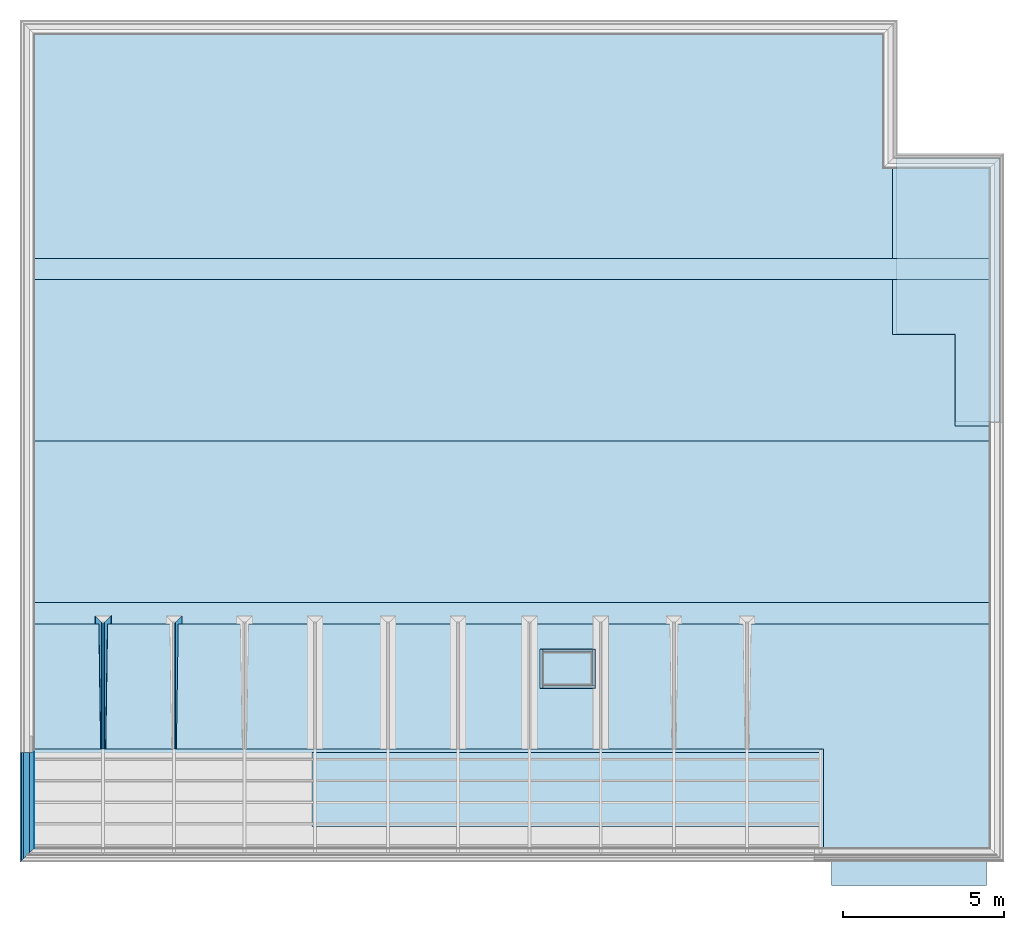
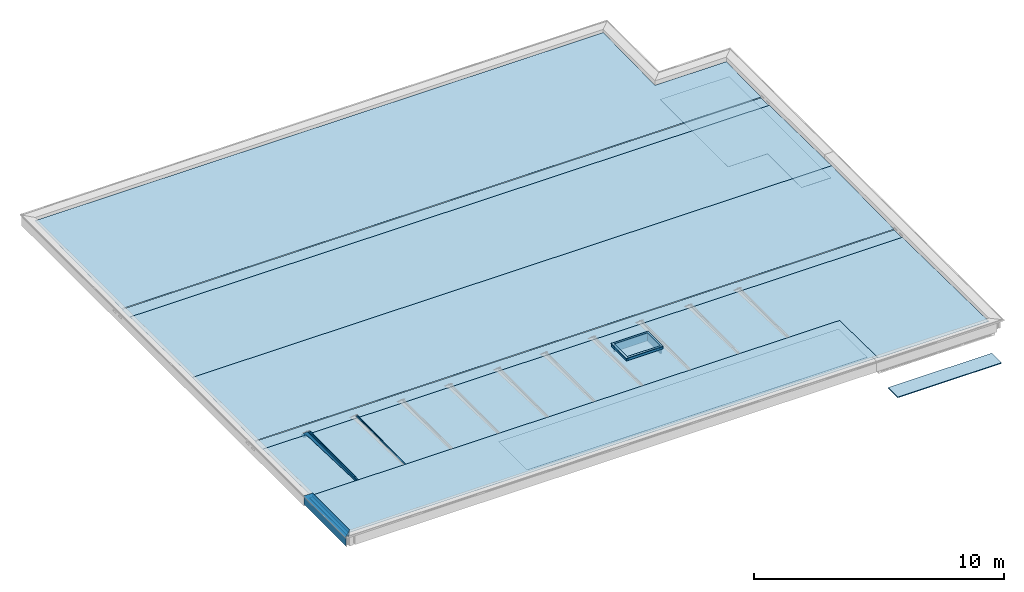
# One storey, part 5 of 16: 10 building element parts, 9 roofs, 4 slabs, 4 walls, 4 elements without a shape of their own.
"""IFC2X3 building model written with IfcOpenShell, lengths in millimetres."""

from ifc_helpers import new_model, entity, si_unit, converted_unit, derived_unit, money_unit, direction, frame, origin_with_axes, place, context, subcontext, project, spatial, faceted_brep, material, type_object, element, aggregate, save


model = new_model("IFC2X3")

# Units and contexts
model_context = context("Model", 3, precision=0.01, world=origin_with_axes(), true_north=direction((0.0, 1.0)))
body_context = subcontext(model_context, "Body", "Model", "MODEL_VIEW")
ifc_project = project(units=[si_unit("LENGTHUNIT", "METRE", prefix="MILLI"), si_unit("AREAUNIT", "SQUARE_METRE"), si_unit("VOLUMEUNIT", "CUBIC_METRE"), converted_unit("PLANEANGLEUNIT", "DEGREE", entity("IfcPlaneAngleMeasure", 0.0174532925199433), si_unit("PLANEANGLEUNIT", "RADIAN"), dimensions=[0, 0, 0, 0, 0, 0, 0]), money_unit("EUR"), converted_unit("TIMEUNIT", "Year", entity("IfcTimeMeasure", 31556926.0), si_unit("TIMEUNIT", "SECOND"), dimensions=[0, 0, 1, 0, 0, 0, 0]), si_unit("MASSUNIT", "GRAM", prefix="KILO"), si_unit("THERMODYNAMICTEMPERATUREUNIT", "DEGREE_CELSIUS"), si_unit("LUMINOUSINTENSITYUNIT", "LUMEN"), si_unit("ENERGYUNIT", "JOULE", prefix="MEGA"), derived_unit("THERMALCONDUCTANCEUNIT", [(si_unit("POWERUNIT", "WATT"), 1), (si_unit("LENGTHUNIT", "METRE"), -1), (si_unit("THERMODYNAMICTEMPERATUREUNIT", "KELVIN"), -1)]), derived_unit("SPECIFICHEATCAPACITYUNIT", [(si_unit("ENERGYUNIT", "JOULE"), 1), (si_unit("MASSUNIT", "GRAM", prefix="KILO"), -1), (si_unit("THERMODYNAMICTEMPERATUREUNIT", "KELVIN"), -1)]), derived_unit("MASSDENSITYUNIT", [(si_unit("MASSUNIT", "GRAM", prefix="KILO"), 1), (si_unit("VOLUMEUNIT", "CUBIC_METRE"), -1)])], contexts=[model_context])

# Site, building, storey
site_placement = place(None, origin_with_axes())
site = spatial("IfcSite", under=ifc_project, at=site_placement, Name="Site", CompositionType="ELEMENT")
building_placement = place(site_placement, origin_with_axes())
building = spatial("IfcBuilding", under=site, at=building_placement, Name="Naam gebouw", CompositionType="ELEMENT")
storey_placement = place(building_placement, frame((0.0, 0.0, 7820.0), z_axis=(0.0, 0.0, 1.0), x_axis=(1.0, 0.0, 0.0)))
storey = spatial("IfcBuildingStorey", under=building, at=storey_placement, Name="2e dakoverzicht", CompositionType="ELEMENT", Elevation=7820.0)

# Slabs
ifc_material_1 = material(Name="Metaal - Aluminium")
slab_type_1 = type_object("IfcSlabType", Name="Metaal - Aluminium 40", PredefinedType="NOTDEFINED")
slab_1_placement = place(storey_placement, frame((24846.9990408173, 3424.000000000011, -990.0000000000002), z_axis=(0.0, 0.0, 1.0), x_axis=(1.0, 0.0, 0.0)))
element("IfcSlab", 1, at=slab_1_placement, inside=storey, type_object=slab_type_1, material=ifc_material_1, Name="h4 Aluminium, aluminiumlegeringen_Vloer-x", PredefinedType="NOTDEFINED", context=body_context, shape_type="Brep", body=[
    faceted_brep([(0.0, 0.0, 40.00000000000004), (0.0, 0.0, 0.0), (0.0, -774.0000000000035, 0.0), (0.0, -774.0000000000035, 40.00000000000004), (4806.001883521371, 0.0, 40.00000000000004), (4806.001883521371, 0.0, 0.0), (4806.001883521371, -774.0000000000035, 0.0), (4806.001883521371, -774.0000000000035, 40.00000000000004)], [[[0, 1, 2, 3]], [[4, 5, 1, 0]], [[2, 1, 5, 6]], [[3, 2, 6, 7]], [[4, 0, 3, 7]], [[7, 6, 5, 4]]]),
])
ifc_material_2 = material(Name="Cementgebonden plaatmateriaal")
slab_type_2 = type_object("IfcSlabType", Name="Cementgebonden plaatmateriaal 12", PredefinedType="NOTDEFINED")
slab_2_placement = place(storey_placement, frame((30066.99999999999, 17009.99778166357, -770.000002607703), z_axis=(0.0, 0.0, 1.0), x_axis=(1.0, 0.0, 0.0)))
element("IfcSlab", 2, at=slab_2_placement, inside=storey, type_object=slab_type_2, material=ifc_material_2, Name="f7 Vormvaste grondstoffen, gebonden met gips_Vloer-x", PredefinedType="NOTDEFINED", context=body_context, shape_type="Brep", body=[
    faceted_brep([(0.0, 0.0, 11.99999999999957), (0.0, 0.0, 0.0), (0.0, 8181.978432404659, 0.0), (0.0, 8181.978432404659, 11.99999999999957), (-1380.999976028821, 0.0, 11.99999999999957), (-1380.999976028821, 0.0, 0.0), (-1380.999976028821, 2726.002602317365, 0.0), (-3206.999999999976, 2726.002602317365, 0.0), (-3206.999999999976, 8181.978432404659, 0.0), (-3206.999999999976, 8181.978432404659, 11.99999999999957), (-3206.999999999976, 2726.002602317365, 11.99999999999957), (-1380.999976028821, 2726.002602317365, 11.99999999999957)], [[[0, 1, 2, 3]], [[4, 5, 1, 0]], [[2, 1, 5, 6, 7, 8]], [[3, 2, 8, 9]], [[4, 0, 3, 9, 10, 11]], [[11, 6, 5, 4]], [[10, 7, 6, 11]], [[9, 8, 7, 10]]]),
])
ifc_material_3 = material(Name="Isolatie - Kunststof hard")
slab_type_3 = type_object("IfcSlabType", Name="Isolatie - Kunststof hard 145", PredefinedType="NOTDEFINED")
slab_3_placement = place(storey_placement, frame((29899.99999999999, 16887.99778166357, -259.9999999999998), z_axis=(0.0, 0.0, 1.0), x_axis=(1.0, 0.0, 0.0)))
element("IfcSlab", 3, at=slab_3_placement, inside=storey, type_object=slab_type_3, material=ifc_material_3, Name="n7 Kunststof met cellenstructuur_Vloer-x", PredefinedType="NOTDEFINED", context=body_context, shape_type="Brep", body=[
    faceted_brep([(0.0, 0.0, 0.0), (0.0, 0.0, -144.9999999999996), (0.0, 8136.978432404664, -144.9999999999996), (0.0, 8136.978432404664, 0.0), (-1231.999976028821, 0.0, 0.0), (-1231.999976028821, 0.0, -144.9999999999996), (-1231.999976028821, 2830.002611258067, -144.9999999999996), (-3162.000029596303, 2830.002611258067, -144.9999999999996), (-3162.000029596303, 8136.978432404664, -144.9999999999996), (-3162.000029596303, 8136.978432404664, 0.0), (-3162.000029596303, 2830.002611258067, 0.0), (-1231.999976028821, 2830.002611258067, 0.0)], [[[0, 1, 2, 3]], [[4, 5, 1, 0]], [[2, 1, 5, 6, 7, 8]], [[3, 2, 8, 9]], [[4, 0, 3, 9, 10, 11]], [[11, 6, 5, 4]], [[10, 7, 6, 11]], [[9, 8, 7, 10]]]),
])
ifc_material_4 = material(Name="Gipsplaat")
slab_type_4 = type_object("IfcSlabType", Name="45 Geisoleerd plafond 90 104", PredefinedType="NOTDEFINED")
slab_4_placement = place(storey_placement, frame((8749.999790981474, 6779.999960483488, 99.00004846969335), z_axis=(0.0, 0.0, 1.0), x_axis=(1.0, 0.0, 0.0)))
element("IfcSlab", 4, at=slab_4_placement, inside=storey, type_object=slab_type_4, material=ifc_material_4, Name="f7 Vormvaste grondstoffen, gebonden met gips_Vloer-x", PredefinedType="NOTDEFINED", context=body_context, shape_type="Brep", body=[
    faceted_brep([(0.0, 0.0, -91.99999999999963), (0.0, 0.0, -104.0000000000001), (-0.0001020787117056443, -2299.999999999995, -104.0000000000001), (-0.0001020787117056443, -2299.999999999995, -91.99999999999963), (15749.99934863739, -0.0006990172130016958, -91.99999999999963), (15749.99934863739, -0.0006990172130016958, -104.0000000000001), (15749.99924655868, -2300.000699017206, -104.0000000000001), (15749.99924655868, -2300.000699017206, -91.99999999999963)], [[[0, 1, 2, 3]], [[4, 5, 1, 0]], [[2, 1, 5, 6]], [[3, 2, 6, 7]], [[4, 0, 3, 7]], [[7, 6, 5, 4]]]),
])

# Walls
wall_type = type_object("IfcWallType", Name="Isolatie - Kunststof hard 85", PredefinedType="NOTDEFINED")
wall_1_placement = place(storey_placement, frame((17439.99999999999, 9884.999976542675, 0.0), z_axis=(0.0, 0.0, 1.0), x_axis=(-1.0, 0.0, 0.0)))
element("IfcWall", 5, at=wall_1_placement, inside=storey, type_object=wall_type, material=ifc_material_3, Name="21_Wand-x", context=body_context, shape_type="Brep", body=[
    faceted_brep([(1530.000000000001, -85.00000000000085, 380.0000000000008), (1530.000000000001, 0.0, 380.0000000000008), (0.0, 0.0, 380.0000000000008), (0.0, -85.00000000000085, 380.0000000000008), (1530.000000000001, -85.00000000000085, 0.0), (1530.000000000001, 0.0, 0.0), (0.0, 0.0, 0.0), (0.0, -85.00000000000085, 0.0)], [[[0, 1, 2, 3]], [[1, 0, 4, 5]], [[1, 5, 6, 2]], [[7, 3, 2, 6]], [[4, 0, 3, 7]], [[5, 4, 7, 6]]]),
])
wall_2_placement = place(storey_placement, frame((15909.99999999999, 8854.999976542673, 0.0), z_axis=(0.0, 0.0, 1.0), x_axis=(1.0, 0.0, 0.0)))
element("IfcWall", 6, at=wall_2_placement, inside=storey, type_object=wall_type, material=ifc_material_3, Name="21_Wand-x", context=body_context, shape_type="Brep", body=[
    faceted_brep([(1615.000000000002, -84.99999999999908, 380.0000000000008), (1615.000000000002, 0.0, 380.0000000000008), (0.0, 0.0, 380.0000000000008), (0.0, -85.00000000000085, 380.0000000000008), (1615.000000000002, -84.99999999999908, 0.0), (1615.000000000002, 0.0, 0.0), (0.0, 0.0, 0.0), (0.0, -85.00000000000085, 0.0)], [[[0, 1, 2, 3]], [[1, 0, 4, 5]], [[1, 5, 6, 2]], [[7, 3, 2, 6]], [[4, 0, 3, 7]], [[5, 4, 7, 6]]]),
])
wall_3_placement = place(storey_placement, frame((15909.99999999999, 9884.999976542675, 0.0), z_axis=(0.0, 0.0, 1.0), x_axis=(0.0, -1.0, 0.0)))
element("IfcWall", 7, at=wall_3_placement, inside=storey, type_object=wall_type, material=ifc_material_3, Name="21_Wand-x", context=body_context, shape_type="Brep", body=[
    faceted_brep([(1115.000000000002, -85.00000000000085, 380.0000000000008), (1115.000000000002, 0.0, 380.0000000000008), (-85.00000000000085, 0.0, 380.0000000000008), (-85.00000000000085, -85.00000000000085, 380.0000000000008), (1115.000000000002, -85.00000000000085, 0.0), (1115.000000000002, 0.0, 0.0), (-85.00000000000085, 0.0, 0.0), (-85.00000000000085, -85.00000000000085, 0.0)], [[[0, 1, 2, 3]], [[1, 0, 4, 5]], [[1, 5, 6, 2]], [[7, 3, 2, 6]], [[4, 0, 3, 7]], [[5, 4, 7, 6]]]),
])
wall_4_placement = place(storey_placement, frame((17439.99999999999, 8854.999976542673, 0.0), z_axis=(0.0, 0.0, 1.0), x_axis=(0.0, 1.0, 0.0)))
element("IfcWall", 8, at=wall_4_placement, inside=storey, type_object=wall_type, material=ifc_material_3, Name="21_Wand-x", context=body_context, shape_type="Brep", body=[
    faceted_brep([(1115.000000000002, -85.00000000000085, 380.0000000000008), (1115.000000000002, 0.0, 380.0000000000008), (0.0, 0.0, 380.0000000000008), (0.0, -85.00000000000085, 380.0000000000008), (1115.000000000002, -85.00000000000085, 0.0), (1115.000000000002, 0.0, 0.0), (0.0, 0.0, 0.0), (0.0, -85.00000000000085, 0.0)], [[[0, 1, 2, 3]], [[1, 0, 4, 5]], [[1, 5, 6, 2]], [[7, 3, 2, 6]], [[4, 0, 3, 7]], [[5, 4, 7, 6]]]),
])

# Roofs
ifc_material_5 = material(Name="47 waterdichte laag - bitumen")
roof_1_placement = place(storey_placement, frame((716.0560544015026, 6880.000010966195, 317.999999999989), z_axis=(0.0, 0.0, 1.0), x_axis=(1.0, 0.0, 0.0)))
element("IfcRoof", 9, at=roof_1_placement, inside=storey, material=ifc_material_5, Name="27_Dak-x", ShapeType="NOTDEFINED", context=body_context, shape_type="Brep", body=[
    faceted_brep([(23883.94298559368, 0.0, 3.000337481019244), (-561.0560544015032, 0.0, 3.000337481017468), (-561.0560544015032, -3066.000020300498, 48.99033778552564), (23883.94298559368, -3066.000020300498, 48.99033778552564), (23883.94298531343, -1.586810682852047e-07, 4.420144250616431e-07), (-561.0560547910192, -1.586810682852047e-07, 4.420144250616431e-07), (-561.0560547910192, -3066.000020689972, 45.99000074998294), (23883.94298531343, -3066.000020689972, 45.99000074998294)], [[[0, 1, 2, 3]], [[1, 0, 4, 5]], [[2, 1, 5, 6]], [[3, 2, 6, 7]], [[0, 3, 7, 4]], [[5, 4, 7, 6]]]),
])
ifc_material_6 = material(Name="Glas")
roof_2_placement = place(storey_placement, frame((15825.00002061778, 9970.000000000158, 380.0000000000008), z_axis=(0.0, 0.0, 1.0), x_axis=(1.0, 4.161523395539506e-09, 0.0)))
element("IfcRoof", 10, at=roof_2_placement, inside=storey, material=ifc_material_6, Name="27_Dak-x", ShapeType="NOTDEFINED", context=body_context, shape_type="Brep", body=[
    faceted_brep([(-9.999999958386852, 10.00000004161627, 0.0), (-10.00000503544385, -1210.000023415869, 0.0), (-10.00000503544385, -1210.000023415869, 19.99775037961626), (-9.999999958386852, 10.00000004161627, 19.99775037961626), (1709.999979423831, 9.999992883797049, 0.0), (1709.999974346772, -1210.000030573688, 0.0), (1614.999999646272, -85.00000672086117, 0.0), (84.99999964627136, -85.00000035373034, 0.0), (84.99999535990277, -1115.000000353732, 0.0), (1614.999995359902, -1115.000006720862, 0.0), (1709.999974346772, -1210.000030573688, 19.99775037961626), (1709.999979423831, 9.999992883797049, 19.99775037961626), (1614.999999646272, -85.00000672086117, 19.99775037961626), (1614.999995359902, -1115.000006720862, 19.99775037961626), (84.99999535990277, -1115.000000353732, 19.99775037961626), (84.99999964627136, -85.00000035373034, 19.99775037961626)], [[[0, 1, 2, 3]], [[0, 4, 5, 1], [6, 7, 8, 9]], [[1, 5, 10, 2]], [[3, 2, 10, 11], [12, 13, 14, 15]], [[4, 0, 3, 11]], [[5, 4, 11, 10]], [[7, 6, 12, 15]], [[8, 7, 15, 14]], [[9, 8, 14, 13]], [[6, 9, 13, 12]]]),
])
roof_3_placement = place(storey_placement, frame((15825.00002061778, 9970.000000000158, 380.0000000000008), z_axis=(0.0, 0.0, 1.0), x_axis=(1.0, 4.161523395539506e-09, 0.0)))
element("IfcRoof", 11, at=roof_3_placement, inside=storey, material=ifc_material_6, Name="27_Dak-x", ShapeType="NOTDEFINED", context=body_context, shape_type="Brep", body=[
    faceted_brep([(84.99999964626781, -85.00000035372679, 0.0), (84.99999535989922, -1115.000023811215, 0.0), (84.99999535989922, -1115.000023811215, 19.99775037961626), (84.99999964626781, -85.00000035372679, 19.99775037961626), (1614.999979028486, -85.00000672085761, 0.0), (1614.999974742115, -1115.000030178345, 0.0), (1614.999974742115, -1115.000030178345, 19.99775037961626), (1614.999979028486, -85.00000672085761, 19.99775037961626)], [[[0, 1, 2, 3]], [[0, 4, 5, 1]], [[1, 5, 6, 2]], [[3, 2, 6, 7]], [[4, 0, 3, 7]], [[5, 4, 7, 6]]]),
])
roof_4_placement = place(storey_placement, frame((17085.35976262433, 22080.00005534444, 229.999662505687), z_axis=(0.0, 0.0, 1.0), x_axis=(-1.0, 0.0, 0.0)))
element("IfcRoof", 12, at=roof_4_placement, inside=storey, material=ifc_material_5, Name="27_Dak-x", ShapeType="NOTDEFINED", context=body_context, shape_type="Brep", body=[
    faceted_brep([(-9359.64023737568, -6940.000000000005, 107.1003374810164), (16930.35976262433, -6940.000000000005, 107.1003374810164), (16930.35976262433, 0.0, 3.000337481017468), (-12659.64023737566, 0.0, 3.000337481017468), (-12659.64023737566, -2789.97621406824, 44.8499806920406), (-9359.64023737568, -2789.97621406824, 44.8499806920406), (-9359.672055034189, -6940.000000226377, 104.1000004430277), (16930.39158102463, -6940.000000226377, 104.1000004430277), (16930.39158102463, 3.894662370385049e-07, 4.337916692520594e-07), (-12659.67205577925, 3.894662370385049e-07, 4.337916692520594e-07), (-12659.67205577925, -2790.053023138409, 41.85079578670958), (-9359.672055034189, -2790.053023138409, 41.85079578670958)], [[[0, 1, 2, 3, 4, 5]], [[1, 0, 6, 7]], [[2, 1, 7, 8]], [[3, 2, 8, 9]], [[4, 3, 9, 10]], [[5, 4, 10, 11]], [[0, 5, 11, 6]], [[7, 6, 11, 10, 9, 8]]]),
])
roof_5_placement = place(storey_placement, frame((13003.2215252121, 22080.00005534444, 199.9996625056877), z_axis=(0.0, 0.0, 1.0), x_axis=(1.0, 0.0, 0.0)))
element("IfcRoof", 13, at=roof_5_placement, inside=storey, material=ifc_material_5, Name="27_Dak-x", ShapeType="NOTDEFINED", context=body_context, shape_type="Brep", body=[
    faceted_brep([(-12848.2215252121, 0.0, 3.000000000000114), (-12848.2215252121, 0.0, 0.0), (-12848.2215252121, -659.9999999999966, 0.0), (-12848.2215252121, -659.9999999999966, 3.000000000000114), (16741.77847478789, 0.0, 3.000000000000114), (16741.77847478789, 0.0, 0.0), (16741.77847478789, -659.9999999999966, 0.0), (16741.77847478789, -659.9999999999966, 3.000000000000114)], [[[0, 1, 2, 3]], [[4, 5, 1, 0]], [[2, 1, 5, 6]], [[3, 2, 6, 7]], [[4, 0, 3, 7]], [[7, 6, 5, 4]]]),
])
roof_6_placement = place(storey_placement, frame((17080.59517070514, 11420.00005534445, 229.9996625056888), z_axis=(0.0, 0.0, 1.0), x_axis=(-1.0, 0.0, 0.0)))
element("IfcRoof", 14, at=roof_6_placement, inside=storey, material=ifc_material_5, Name="27_Dak-x", ShapeType="NOTDEFINED", context=body_context, shape_type="Brep", body=[
    faceted_brep([(-12664.40482929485, -5000.000000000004, 78.00033748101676), (16925.59517070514, -5000.000000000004, 78.00033748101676), (16925.59517070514, 0.0, 3.000337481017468), (-12664.40482929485, 0.0, 3.000337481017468), (-12664.43664769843, -4999.999999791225, 75.00000043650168), (16925.62698910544, -4999.999999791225, 75.00000043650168), (16925.62698910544, 3.894680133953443e-07, 4.337916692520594e-07), (-12664.43664769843, 3.894680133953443e-07, 4.337916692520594e-07)], [[[0, 1, 2, 3]], [[1, 0, 4, 5]], [[2, 1, 5, 6]], [[3, 2, 6, 7]], [[0, 3, 7, 4]], [[5, 4, 7, 6]]]),
])
roof_7_placement = place(storey_placement, frame((12014.73947160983, 21420.00005534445, 229.9996625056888), z_axis=(0.0, 0.0, 1.0), x_axis=(1.0, 0.0, 0.0)))
element("IfcRoof", 15, at=roof_7_placement, inside=storey, material=ifc_material_5, Name="27_Dak-x", ShapeType="NOTDEFINED", context=body_context, shape_type="Brep", body=[
    faceted_brep([(-11859.73947160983, 0.0, 3.000337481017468), (-11859.73947160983, -5000.0, 78.00033748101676), (17730.26052839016, -5000.0, 78.00033748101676), (17730.26052839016, 0.0, 3.000337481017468), (-11859.77129001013, -2.087787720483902e-07, 4.4276404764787e-07), (-11859.77129001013, -5000.000000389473, 75.00000044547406), (17730.29234679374, -5000.000000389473, 75.00000044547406), (17730.29234679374, -2.087787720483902e-07, 4.4276404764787e-07)], [[[0, 1, 2, 3]], [[1, 0, 4, 5]], [[2, 1, 5, 6]], [[3, 2, 6, 7]], [[0, 3, 7, 4]], [[5, 4, 7, 6]]]),
])
roof_8_placement = place(storey_placement, frame((18564.45162053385, 10760.00005541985, 229.9996625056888), z_axis=(0.0, 0.0, 1.0), x_axis=(1.0, 0.0, 0.0)))
element("IfcRoof", 16, at=roof_8_placement, inside=storey, material=ifc_material_5, Name="27_Dak-x", ShapeType="NOTDEFINED", context=body_context, shape_type="Brep", body=[
    faceted_brep([(-18409.45162053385, 2.243520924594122e-07, 3.000337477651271), (-18409.4516205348, -3880.000002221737, 61.20033751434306), (6035.547419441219, -3880.0000013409, 61.20033750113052), (6035.547419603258, -6946.006074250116, 107.1904285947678), (11180.54837946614, -6946.006073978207, 107.1904285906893), (11180.54837946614, 0.0, 3.000337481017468), (-2739.45258053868, -1990.000078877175, 32.85033866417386), (-2739.45258053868, -790.0000483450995, 14.85033820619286), (-1039.452580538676, -790.0000483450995, 14.85033820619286), (-1039.452580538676, -1990.000078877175, 32.85033866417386), (-18409.45162092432, 6.090328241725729e-07, 4.304965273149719e-07), (-18409.45162092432, -3880.000002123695, 58.2000004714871), (6035.547419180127, -3880.000001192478, 58.20000045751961), (6035.547419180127, -6946.006074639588, 104.1900915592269), (11180.54837985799, -6946.00607370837, 104.1900915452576), (11180.54837985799, -3.221831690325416e-07, 4.444657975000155e-07), (-2739.452580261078, -1990.000079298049, 29.85000162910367), (-2739.452580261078, -790.0000483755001, 11.85000116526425), (-1039.452580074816, -790.0000483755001, 11.85000116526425), (-1039.452580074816, -1990.000079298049, 29.85000162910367)], [[[0, 1, 2, 3, 4, 5], [6, 7, 8, 9]], [[1, 0, 10, 11]], [[2, 1, 11, 12]], [[3, 2, 12, 13]], [[4, 3, 13, 14]], [[5, 4, 14, 15]], [[5, 15, 10, 0]], [[7, 6, 16, 17]], [[8, 7, 17, 18]], [[9, 8, 18, 19]], [[6, 9, 19, 16]], [[11, 10, 15, 14, 13, 12], [17, 16, 19, 18]]]),
])
roof_9_placement = place(storey_placement, frame((13003.2215252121, 11420.00005534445, 199.9996625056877), z_axis=(0.0, 0.0, 1.0), x_axis=(1.0, 0.0, 0.0)))
element("IfcRoof", 17, at=roof_9_placement, inside=storey, material=ifc_material_5, Name="27_Dak-x", ShapeType="NOTDEFINED", context=body_context, shape_type="Brep", body=[
    faceted_brep([(-12848.2215252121, -660.0000000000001, 3.000000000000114), (-12848.2215252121, -660.0000000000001, 0.0), (16741.77847478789, -660.0000000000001, 0.0), (16741.77847478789, -660.0000000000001, 3.000000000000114), (-12848.2215252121, 0.0, 3.000000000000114), (-12848.2215252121, 0.0, 0.0), (16741.77847478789, 0.0, 0.0), (16741.77847478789, 0.0, 3.000000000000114)], [[[0, 1, 2, 3]], [[4, 5, 1, 0]], [[2, 1, 5, 6]], [[3, 2, 6, 7]], [[4, 0, 3, 7]], [[7, 6, 5, 4]]]),
])

# Beam, building element parts
beam_type_1 = type_object("IfcBeamType", Name="47 Dakrand metselwerk overstek 443 x 421", PredefinedType="BEAM")
beam_1_placement = place(storey_placement, frame((0.0, 3600.0, 480.0000000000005), z_axis=(0.0, 0.0, 1.0), x_axis=(1.0, 0.0, 0.0)))
beam_1 = element("IfcBeam", 18, at=beam_1_placement, inside=storey, type_object=beam_type_1, Name="28_Balk-x", ObjectType="BEAM")
building_element_part_1_placement = place(beam_1_placement, origin_with_axes())
building_element_part_1 = element("IfcBuildingElementPart", 19, at=building_element_part_1_placement, material=ifc_material_5, Name="47 waterdichte laag - bitumen", context=body_context, shape_type="Brep", body=[
    faceted_brep([(-284.6578516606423, -210.6578684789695, 28.48044654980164), (-284.657851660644, -210.681597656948, 28.48044654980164), (-262.1351923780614, -188.9209377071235, 28.48044654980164), (-262.1349805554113, -188.1349973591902, 28.48044654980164), (-262.1351923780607, 3179.999999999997, 28.48044654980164), (-284.6578516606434, 3179.999999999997, 28.48044654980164), (-284.7348536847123, 3179.999999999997, 26.26365554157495), (-284.7348536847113, -210.7559945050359, 26.26365554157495), (154.9999971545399, 214.1014984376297, 10.98914871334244), (158.0000000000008, 217.0000034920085, 13.88675533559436), (157.9999999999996, 3179.999999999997, 13.88675533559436), (154.9999971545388, 3179.999999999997, 10.98914871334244)], [[[0, 1, 2, 3, 4, 5]], [[1, 0, 5, 6, 7]], [[2, 1, 7, 8, 9]], [[3, 2, 9, 10, 4]], [[6, 5, 4, 10, 11]], [[8, 7, 6, 11]], [[9, 8, 11, 10]]]),
])
ifc_material_7 = material(Name="Steen - Baksteen")
building_element_part_2_placement = place(beam_1_placement, origin_with_axes())
building_element_part_2 = element("IfcBuildingElementPart", 20, at=building_element_part_2_placement, material=ifc_material_7, Name="Steen - Baksteen", context=body_context, shape_type="Brep", body=[
    faceted_brep([(-248.7618200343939, -176.0000208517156, -39.99999999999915), (-217.7113043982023, -146.0000238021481, -39.99999999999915), (-217.7113043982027, -146.0000238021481, -392.0000000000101), (-179.9999999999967, -109.564589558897, -392.0000000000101), (-179.9999999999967, -109.564589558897, 3.000000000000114), (-249.999999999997, -177.1963100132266, 3.000000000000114), (-249.999999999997, -177.1963100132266, -392.0000000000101), (-248.7618200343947, -176.0000208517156, -392.0000000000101), (-249.999983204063, -176.0000208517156, -39.99999999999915), (-249.999983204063, -146.0000238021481, -39.99999999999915), (-249.999983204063, -146.0000238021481, -392.0000000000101), (-249.9999999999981, 3179.999999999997, -392.0000000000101), (-179.9999999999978, 3179.999999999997, -392.0000000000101), (-179.9999999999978, 3179.999999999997, 3.000000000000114), (-249.9999999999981, 3179.999999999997, 3.000000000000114), (-249.999983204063, -176.0000208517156, -392.0000000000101)], [[[0, 1, 2, 3, 4, 5, 6, 7]], [[0, 8, 9, 1]], [[2, 1, 9, 10]], [[2, 10, 11, 12, 3]], [[13, 4, 3, 12]], [[14, 5, 4, 13]], [[8, 15, 6, 5, 14, 11, 10, 9]], [[15, 7, 6]], [[0, 7, 15, 8]], [[14, 13, 12, 11]]]),
])
building_element_part_3_placement = place(beam_1_placement, origin_with_axes())
building_element_part_3 = element("IfcBuildingElementPart", 21, at=building_element_part_3_placement, material=ifc_material_5, Name="47 waterdichte laag - bitumen", context=body_context, shape_type="Brep", body=[
    faceted_brep([(154.9999999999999, 3179.999999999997, 10.989150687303), (155.0000006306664, 3179.999999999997, -6.999998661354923), (155.0000006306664, 214.1015017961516, -6.999998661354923), (154.9999999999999, 214.1015011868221, 10.989150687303), (157.9999999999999, 3179.999999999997, 13.88675286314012), (157.9999999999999, 3179.999999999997, -192.0000000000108), (154.9999999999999, 3179.999999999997, -192.0000000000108), (154.9999999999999, 214.1015011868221, -192.0000000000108), (157.9999999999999, 217.0000034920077, -192.0000000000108), (157.9999999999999, 217.0000034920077, 13.88675286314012)], [[[0, 1, 2, 3]], [[0, 4, 5, 6, 1]], [[1, 6, 7, 2]], [[3, 2, 7, 8, 9]], [[4, 0, 3, 9]], [[5, 4, 9, 8]], [[6, 5, 8, 7]]]),
])
ifc_material_8 = material(Name="Isolatie - Kunststof zacht")
building_element_part_4_placement = place(beam_1_placement, origin_with_axes())
building_element_part_4 = element("IfcBuildingElementPart", 22, at=building_element_part_4_placement, material=ifc_material_8, Name="Isolatie - Kunststof zacht", context=body_context, shape_type="Brep", body=[
    faceted_brep([(140.0000003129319, 3179.999999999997, -44.99999999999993), (0.0, 3179.999999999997, -44.99999999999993), (0.0, 64.34554875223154, -44.99999999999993), (140.0000003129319, 199.6089899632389, -44.99999999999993), (140.0000003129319, 3179.999999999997, -154.0000001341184), (0.0, 3179.999999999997, -154.0000001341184), (0.0, 64.34554875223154, -154.0000001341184), (140.0000003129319, 199.6089899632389, -154.0000001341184)], [[[0, 1, 2, 3]], [[0, 4, 5, 1]], [[1, 5, 6, 2]], [[3, 2, 6, 7]], [[4, 0, 3, 7]], [[5, 4, 7, 6]]]),
])
ifc_material_9 = material(Name="Hout C")
building_element_part_5_placement = place(beam_1_placement, origin_with_axes())
building_element_part_5 = element("IfcBuildingElementPart", 23, at=building_element_part_5_placement, material=ifc_material_9, Name="Hout C", context=body_context, shape_type="Brep", body=[
    faceted_brep([(0.0, 3179.999999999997, -154.0000000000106), (0.0, 3179.999999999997, -192.0000000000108), (0.0, 64.34554875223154, -192.0000000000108), (0.0, 64.34554875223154, -154.0000000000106), (139.9999999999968, 3179.999999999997, -154.0000000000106), (139.9999999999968, 3179.999999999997, -192.0000000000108), (139.9999999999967, 199.6089896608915, -192.0000000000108), (139.9999999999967, 199.608989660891, -154.0000000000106)], [[[0, 1, 2, 3]], [[0, 4, 5, 1]], [[1, 5, 6, 2]], [[3, 2, 6, 7]], [[4, 0, 3, 7]], [[5, 4, 7, 6]]]),
])
aggregate(beam_1, [building_element_part_1, building_element_part_2, building_element_part_3, building_element_part_4, building_element_part_5])

beam_type_2 = type_object("IfcBeamType", Name="47 IPE inpakken 250 x 203", PredefinedType="BEAM")
beam_2_placement = place(storey_placement, frame((2241.999999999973, 10810.00005527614, 269.9999999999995), z_axis=(0.0, 0.0, 1.0), x_axis=(-1.0, 0.0, 0.0)))
beam_2 = element("IfcBeam", 24, at=beam_2_placement, inside=storey, type_object=beam_type_2, Name="_Regenwaterafvoer-x", ObjectType="BEAM")
building_element_part_6_placement = place(beam_2_placement, origin_with_axes())
building_element_part_6 = element("IfcBuildingElementPart", 25, at=building_element_part_6_placement, material=ifc_material_5, Name="47 waterdichte laag - bitumen", context=body_context, shape_type="Brep", body=[
    faceted_brep([(33.04263989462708, 3930.000002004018, 21.20000001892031), (28.80000052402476, 3930.000002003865, 21.20000001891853), (2.343556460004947e-07, 3930.000055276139, 50.00000164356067), (-45.49999999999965, 3930.000055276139, 50.00000164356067), (-45.49999999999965, 3930.000055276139, 52.99999990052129), (1.242640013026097, 3930.000055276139, 52.99999990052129), (87.00000027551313, 49.99999964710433, -37.00000001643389), (91.24264203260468, 49.99999964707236, -37.00000001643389), (199.9999981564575, 49.99999964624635, -150.0000000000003), (199.9999981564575, -199.9999981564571, -150.0000000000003), (2.343552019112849e-07, -2.34354757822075e-07, 50.00000164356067), (-45.5000000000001, 45.50000000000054, 50.00000164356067), (-45.5000000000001, 45.50000000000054, 52.99999990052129), (1.242640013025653, -1.242640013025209, 52.99999990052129), (204.2426399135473, -204.2426399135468, -150.0000000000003), (204.2426399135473, 49.99999964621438, -150.0000000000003)], [[[0, 1, 2, 3, 4, 5]], [[6, 1, 0, 7]], [[6, 8, 9, 10, 2, 1]], [[11, 3, 2, 10]], [[12, 4, 3, 11]], [[13, 5, 4, 12]], [[7, 0, 5, 13, 14, 15]], [[8, 6, 7, 15]], [[8, 15, 14, 9]], [[13, 12, 11, 10, 9, 14]]]),
])
building_element_part_7_placement = place(beam_2_placement, origin_with_axes())
building_element_part_7 = element("IfcBuildingElementPart", 26, at=building_element_part_7_placement, material=ifc_material_3, Name="Isolatie - Kunststof hard", context=body_context, shape_type="Brep", body=[
    faceted_brep([(-45.49999999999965, 3930.000002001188, 21.20000001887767), (-45.49999999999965, 2516.666667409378, 0.0), (-45.5000000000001, 45.50000000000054, 0.0), (-45.5000000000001, 45.50000000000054, 50.00000000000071), (-45.49999999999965, 3930.000055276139, 50.00000000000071), (0.0, 2516.666667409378, 0.0), (28.79999998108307, 3930.000002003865, 21.20000001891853), (87.00000001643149, 49.99999964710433, -37.00000001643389), (0.0, 49.99999964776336, -37.00000001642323), (0.0, 0.0, 0.0), (0.0, 0.0, -150.0000000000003), (199.9999999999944, -199.999999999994, -150.0000000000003), (0.0, 0.0, 50.00000000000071), (0.0, 3930.000055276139, 50.00000000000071), (199.9999999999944, 49.99999964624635, -150.0000000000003), (0.0, 49.99999964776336, -150.0000000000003)], [[[0, 1, 2, 3, 4]], [[5, 1, 0, 6, 7, 8]], [[1, 5, 9, 2]], [[10, 11, 12, 3, 2, 9]], [[12, 13, 4, 3]], [[6, 0, 4, 13]], [[7, 6, 13, 12, 11, 14]], [[15, 8, 7, 14]], [[8, 15, 10, 9, 5]], [[15, 14, 11, 10]]]),
])
aggregate(beam_2, [building_element_part_6, building_element_part_7])

# Beam, building element part
beam_3_placement = place(storey_placement, frame((4520.500000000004, 6880.000000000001, 269.9999999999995), z_axis=(0.0, 0.0, 1.0), x_axis=(1.0, 0.0, 0.0)))
beam_3 = element("IfcBeam", 27, at=beam_3_placement, inside=storey, type_object=beam_type_2, Name="_Regenwaterafvoer-x", ObjectType="BEAM")
building_element_part_8_placement = place(beam_3_placement, origin_with_axes())
building_element_part_8 = element("IfcBuildingElementPart", 28, at=building_element_part_8_placement, material=ifc_material_5, Name="47 waterdichte laag - bitumen", context=body_context, shape_type="Brep", body=[
    faceted_brep([(33.04263989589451, 5.335660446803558e-05, 21.20000001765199), (91.24264203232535, 3880.000055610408, -37.000000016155), (204.2426399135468, 3880.000055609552, -150.0000000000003), (204.2426399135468, 4134.242695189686, -150.0000000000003), (1.242640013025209, 3931.242695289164, 52.99999990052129), (1.242640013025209, 0.0, 52.99999990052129), (28.80000052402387, 5.33564517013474e-05, 21.20000001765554), (87.0000002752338, 3880.00005561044, -37.000000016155), (199.9999981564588, 3880.000055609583, -150.0000000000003), (199.9999981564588, 4130.000053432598, -150.0000000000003), (-45.50000000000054, 3884.500055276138, 50.00000164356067), (-45.50000000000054, 3884.500055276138, 52.99999990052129), (2.34354757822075e-07, 3930.000055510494, 50.00000164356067), (-45.50000000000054, 0.0, 52.99999990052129), (-45.50000000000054, 0.0, 50.00000164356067), (2.34354757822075e-07, 0.0, 50.00000164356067)], [[[0, 1, 2, 3, 4, 5]], [[1, 0, 6, 7]], [[8, 2, 1, 7]], [[2, 8, 9, 3]], [[10, 11, 4, 3, 9, 12]], [[5, 4, 11, 13]], [[6, 0, 5, 13, 14, 15]], [[7, 6, 15, 12, 9, 8]], [[13, 11, 10, 14]], [[14, 10, 12, 15]]]),
])
aggregate(beam_3, [building_element_part_8])

# Beam, building element parts
beam_4_placement = place(storey_placement, frame((2332.999999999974, 6880.000000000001, 269.9999999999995), z_axis=(0.0, 0.0, 1.0), x_axis=(1.0, 0.0, 0.0)))
beam_4 = element("IfcBeam", 29, at=beam_4_placement, inside=storey, type_object=beam_type_2, Name="_Regenwaterafvoer-x", ObjectType="BEAM")
building_element_part_9_placement = place(beam_4_placement, origin_with_axes())
building_element_part_9 = element("IfcBuildingElementPart", 30, at=building_element_part_9_placement, material=ifc_material_5, Name="47 waterdichte laag - bitumen", context=body_context, shape_type="Brep", body=[
    faceted_brep([(33.04263989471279, 5.327778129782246e-05, 21.20000001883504), (91.24264203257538, 3880.000055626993, -37.00000001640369), (204.2426399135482, 3880.000055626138, -150.0000000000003), (204.2426399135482, 4134.242695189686, -150.0000000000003), (1.242640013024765, 3931.242695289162, 52.99999990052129), (1.242640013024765, 0.0, 52.99999990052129), (28.80000052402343, 5.327762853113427e-05, 21.20000001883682), (87.00000027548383, 3880.000055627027, -37.00000001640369), (199.9999981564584, 3880.000055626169, -150.0000000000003), (199.9999981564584, 4130.000053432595, -150.0000000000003), (-45.50000000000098, 3884.500055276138, 50.00000164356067), (-45.50000000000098, 3884.500055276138, 52.99999990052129), (2.343543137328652e-07, 3930.000055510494, 50.00000164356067), (-45.50000000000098, 0.0, 52.99999990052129), (-45.50000000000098, 0.0, 50.00000164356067), (2.343543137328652e-07, 0.0, 50.00000164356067)], [[[0, 1, 2, 3, 4, 5]], [[1, 0, 6, 7]], [[8, 2, 1, 7]], [[2, 8, 9, 3]], [[10, 11, 4, 3, 9, 12]], [[5, 4, 11, 13]], [[6, 0, 5, 13, 14, 15]], [[7, 6, 15, 12, 9, 8]], [[13, 11, 10, 14]], [[14, 10, 12, 15]]]),
])
building_element_part_10_placement = place(beam_4_placement, origin_with_axes())
building_element_part_10 = element("IfcBuildingElementPart", 31, at=building_element_part_10_placement, material=ifc_material_3, Name="Isolatie - Kunststof hard", context=body_context, shape_type="Brep", body=[
    faceted_brep([(28.79999998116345, 5.327762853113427e-05, 21.20000001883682), (87.00000001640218, 3880.000055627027, -37.00000001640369), (199.9999999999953, 3880.000055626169, -150.0000000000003), (199.9999999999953, 4130.000055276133, -150.0000000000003), (0.0, 3930.000055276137, 50.00000000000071), (0.0, 0.0, 50.00000000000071), (-45.50000000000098, 5.327495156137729e-05, 21.20000001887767), (-45.50000000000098, 1413.333387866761, 0.0), (0.0, 1413.333387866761, 0.0), (0.0, 3880.000055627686, -37.00000001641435), (0.0, 3880.000055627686, -150.0000000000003), (0.0, 3930.000055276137, -150.0000000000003), (0.0, 3930.000055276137, 0.0), (-45.50000000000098, 3884.500055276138, 0.0), (-45.50000000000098, 3884.500055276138, 50.00000000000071), (-45.50000000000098, 0.0, 50.00000000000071)], [[[0, 1, 2, 3, 4, 5]], [[1, 0, 6, 7, 8, 9]], [[10, 2, 1, 9]], [[2, 10, 11, 3]], [[4, 3, 11, 12, 13, 14]], [[5, 4, 14, 15]], [[6, 0, 5, 15]], [[7, 6, 15, 14, 13]], [[8, 7, 13, 12]], [[9, 8, 12, 11, 10]]]),
])
aggregate(beam_4, [building_element_part_9, building_element_part_10])

save(model, "model.ifc")
